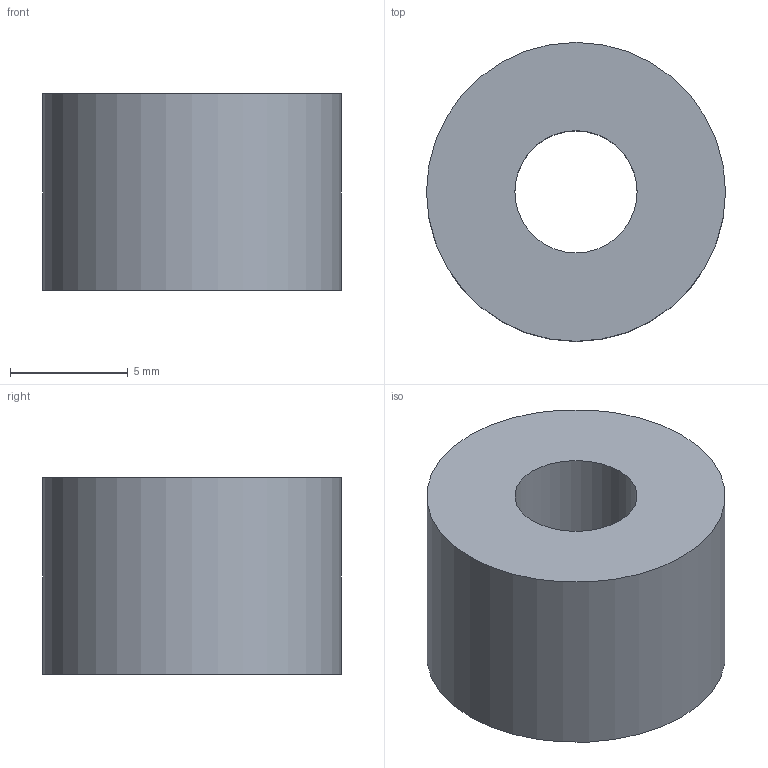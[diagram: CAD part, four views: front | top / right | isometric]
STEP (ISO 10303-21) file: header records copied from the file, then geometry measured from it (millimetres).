
FILE_DESCRIPTION(('eMachineShop Model'),'2;1');
FILE_NAME('/var/converter/output/motor_spacer_1744403780.214.step', '2024-08-20T14:09:21',('eMachineShop'),('eMachineShop'), 'eMachineShop','eMachineShop','Unknown');
FILE_SCHEMA(('AUTOMOTIVE_DESIGN { 1 0 10303 214 1 1 1 1 }'));
Length unit declared in the file: millimetre
Products named in the file (1): eMachineShop
Bounding box: 12.69 x 12.69 x 8.32 mm (x, y, z)
Volume: 877.1 mm3; surface area: 678.5 mm2
Topology: 1 solids, 1 shells, 4 faces, 6 edges, 4 vertices
Faces by surface type: cylinder 2, plane 2
Full cylindrical faces by diameter (mm): 5.194 x1, 12.694 x1
Entity records: 186 total; most frequent: DIRECTION 32, CARTESIAN_POINT 27, ORIENTED_EDGE 12, PCURVE 12, DEFINITIONAL_REPRESENTATION 12, LINE 10, VECTOR 10, AXIS2_PLACEMENT_3D 9
